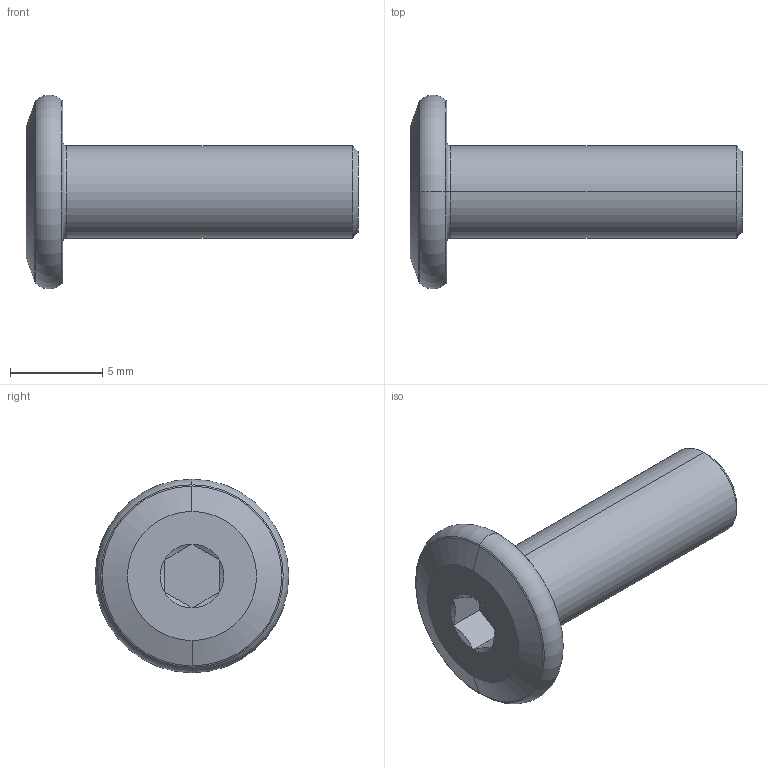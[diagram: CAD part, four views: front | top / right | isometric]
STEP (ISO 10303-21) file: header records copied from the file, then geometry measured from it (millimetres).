
FILE_DESCRIPTION (( 'STEP AP203' ), '1' );
FILE_NAME ('LGD-304D-M5x16.STEP', '2026-08-13T07:21:29', ( '' ), ( '' ), 'SwSTEP 2.0', 'SolidWorks 2020', '' );
FILE_SCHEMA (( 'CONFIG_CONTROL_DESIGN' ));
Length unit declared in the file: millimetre
Products named in the file (1): LGD-304D-M5x16
Bounding box: 18 x 10.5 x 10.5 mm (x, y, z)
Volume: 450.8 mm3; surface area: 475.5 mm2
Topology: 1 solids, 1 shells, 30 faces, 56 edges, 30 vertices
Faces by surface type: cone 10, plane 10, torus 8, cylinder 2
Entity records: 835 total; most frequent: CARTESIAN_POINT 151, DIRECTION 144, ORIENTED_EDGE 112, AXIS2_PLACEMENT_3D 63, EDGE_CURVE 56, EDGE_LOOP 32, CIRCLE 32, FACE_OUTER_BOUND 30
